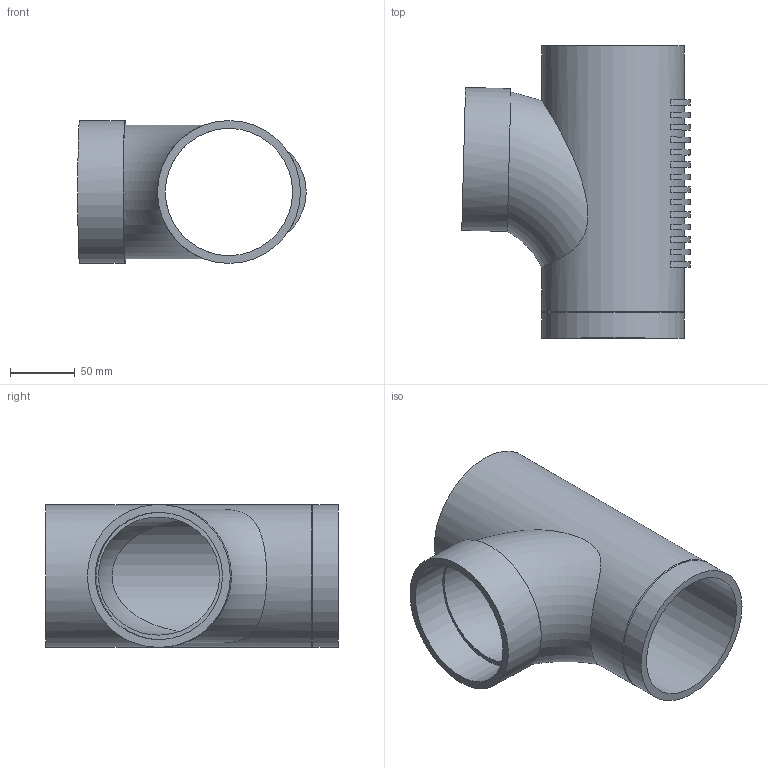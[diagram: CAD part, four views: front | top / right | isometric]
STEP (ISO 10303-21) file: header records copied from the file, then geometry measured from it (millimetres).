
FILE_DESCRIPTION(/* description */ (''),/* implementation_level */ '2;1');
FILE_NAME(/* name */ 'Z:\Geberit\Export\NewStep\DoppelAbzweigMax_Ipart\stp\310108.stp',/* time_stamp */ '2014-04-03T18:07:56+02:00',/* author */ ('ML'),/* organization */ (''),/* preprocessor_version */ 'ST-DEVELOPER v15.2',/* originating_system */ 'Autodesk Inventor 2014',/* authorisation */ '');
FILE_SCHEMA (('AUTOMOTIVE_DESIGN { 1 0 10303 214 3 1 1 }'));
Length unit declared in the file: millimetre
Products named in the file (1): 310108
Bounding box: 175.9 x 225 x 110 mm (x, y, z)
Volume: 552144.4 mm3; surface area: 192668.5 mm2
Topology: 1 solids, 1 shells, 56 faces, 115 edges, 75 vertices
Faces by surface type: plane 33, cylinder 19, cone 2, torus 2
Full cylindrical faces by diameter (mm): 98 x2, 110 x3
Entity records: 1724 total; most frequent: CARTESIAN_POINT 462, DIRECTION 276, ORIENTED_EDGE 200, AXIS2_PLACEMENT_3D 124, EDGE_CURVE 100, EDGE_LOOP 85, VERTEX_POINT 71, CIRCLE 67
